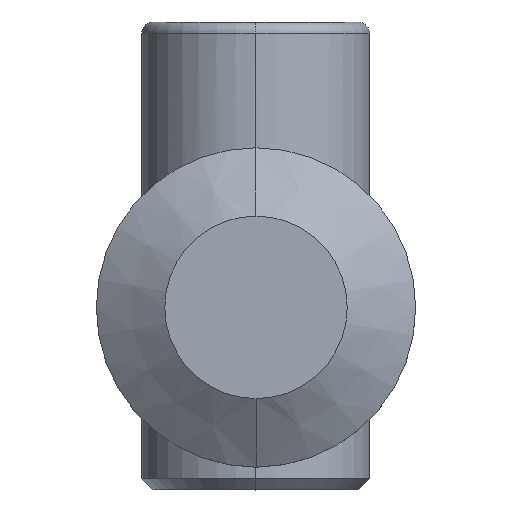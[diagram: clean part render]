
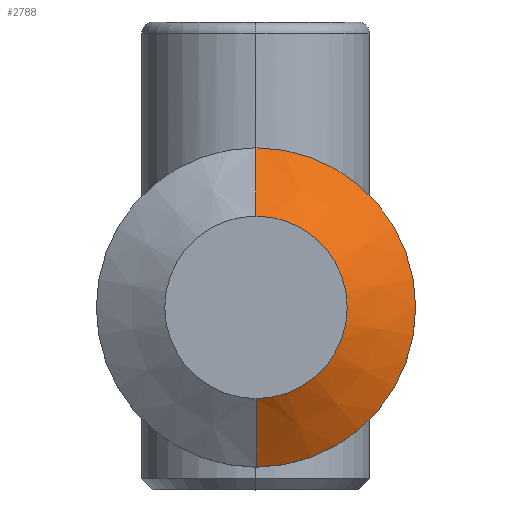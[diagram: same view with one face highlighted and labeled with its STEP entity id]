
A CAD part, top view. The second image highlights one B-rep face of the part: STEP entity #2788.
In plain terms, the highlighted conical face has half-angle 56.31 degrees and reference radius 7 mm.
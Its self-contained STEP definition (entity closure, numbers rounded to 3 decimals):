
#123 = CARTESIAN_POINT ( 'NONE',  ( -9.677, 0., 0. ) ) ;
#181 = CARTESIAN_POINT ( 'NONE',  ( -20.677, 0., 2. ) ) ;
#231 = VERTEX_POINT ( 'NONE', #1971 ) ;
#314 = DIRECTION ( 'NONE',  ( 0., 0., 1. ) ) ;
#325 = CIRCLE ( 'NONE', #1686, 7. ) ;
#552 = EDGE_CURVE ( 'NONE', #975, #1550, #2604, .T. ) ;
#566 = DIRECTION ( 'NONE',  ( 1., 0., 0. ) ) ;
#753 = EDGE_CURVE ( 'NONE', #231, #975, #1575, .T. ) ;
#757 = LINE ( 'NONE', #2183, #1677 ) ;
#781 = AXIS2_PLACEMENT_3D ( 'NONE', #1242, #314, #1485 ) ;
#818 = EDGE_CURVE ( 'NONE', #231, #2424, #757, .T. ) ;
#834 = CARTESIAN_POINT ( 'NONE',  ( -13.677, 0., 2. ) ) ;
#849 = CONICAL_SURFACE ( 'NONE', #781, 7., 0.983 ) ;
#893 = CARTESIAN_POINT ( 'NONE',  ( -6.677, 0., 2. ) ) ;
#975 = VERTEX_POINT ( 'NONE', #123 ) ;
#1040 = DIRECTION ( 'NONE',  ( 0., 0., -1. ) ) ;
#1041 = ORIENTED_EDGE ( 'NONE', *, *, #1731, .F. ) ;
#1242 = CARTESIAN_POINT ( 'NONE',  ( -13.677, 0., 2. ) ) ;
#1485 = DIRECTION ( 'NONE',  ( 1., 0., 0. ) ) ;
#1550 = VERTEX_POINT ( 'NONE', #2103 ) ;
#1561 = AXIS2_PLACEMENT_3D ( 'NONE', #2416, #1040, #566 ) ;
#1574 = DIRECTION ( 'NONE',  ( 0.832, 0., 0.555 ) ) ;
#1575 = CIRCLE ( 'NONE', #1561, 4. ) ;
#1626 = EDGE_LOOP ( 'NONE', ( #2504, #3004, #1041, #2545 ) ) ;
#1677 = VECTOR ( 'NONE', #2228, 1000. ) ;
#1686 = AXIS2_PLACEMENT_3D ( 'NONE', #834, #1730, #2923 ) ;
#1730 = DIRECTION ( 'NONE',  ( 0., 0., 1. ) ) ;
#1731 = EDGE_CURVE ( 'NONE', #1550, #2424, #325, .T. ) ;
#1971 = CARTESIAN_POINT ( 'NONE',  ( -17.677, 0., 0. ) ) ;
#2103 = CARTESIAN_POINT ( 'NONE',  ( -6.677, 0., 2. ) ) ;
#2183 = CARTESIAN_POINT ( 'NONE',  ( -20.677, 0., 2. ) ) ;
#2228 = DIRECTION ( 'NONE',  ( -0.832, 0., 0.555 ) ) ;
#2416 = CARTESIAN_POINT ( 'NONE',  ( -13.677, 0., 0. ) ) ;
#2424 = VERTEX_POINT ( 'NONE', #181 ) ;
#2446 = VECTOR ( 'NONE', #1574, 1000. ) ;
#2504 = ORIENTED_EDGE ( 'NONE', *, *, #753, .F. ) ;
#2545 = ORIENTED_EDGE ( 'NONE', *, *, #552, .F. ) ;
#2599 = FACE_OUTER_BOUND ( 'NONE', #1626, .T. ) ;
#2604 = LINE ( 'NONE', #893, #2446 ) ;
#2788 = ADVANCED_FACE ( 'NONE', ( #2599 ), #849, .T. ) ;
#2923 = DIRECTION ( 'NONE',  ( 1., 0., 0. ) ) ;
#3004 = ORIENTED_EDGE ( 'NONE', *, *, #818, .T. ) ;
